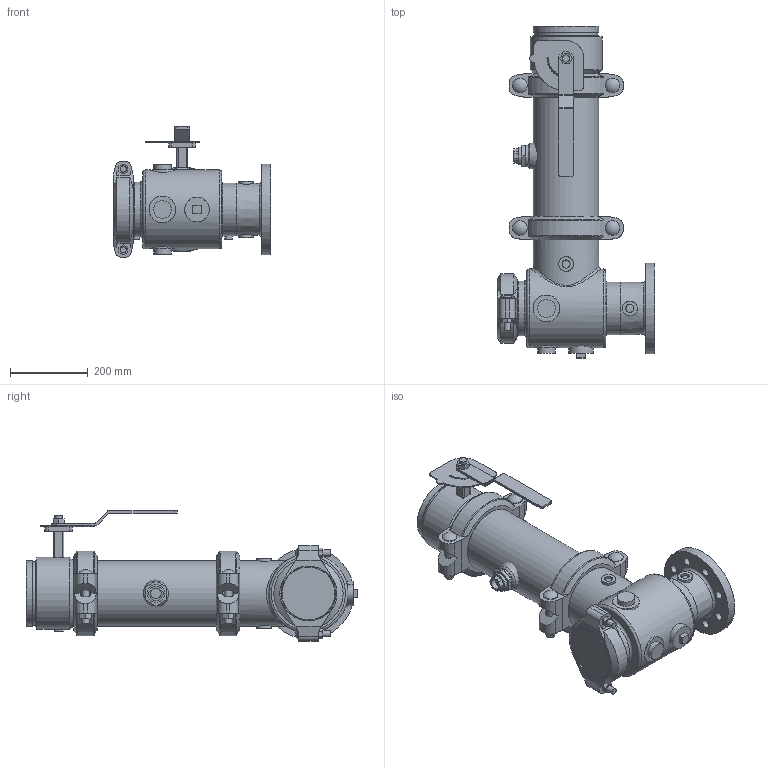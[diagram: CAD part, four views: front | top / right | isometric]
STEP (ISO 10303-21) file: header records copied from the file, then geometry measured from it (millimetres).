
FILE_DESCRIPTION(/* description */ ('VIC SVI PUMP DROP HORZ S/391 (OGSxFLG)','CAx-IF Rec.Pracs.---Representation and Presentation of Product Manufacturing Information (PMI)---4.0---2014-10-13'),/* implementation_level */ '2;1');
FILE_NAME(/* name */ 'C:\Users\kkamble\AppData\Roaming\Autodesk\ApplicationPlugins\Back Up\Victaulic_PN10_Series 391 (OGSxFLG)\Victaulic_PN10_Series 391 (OGSxFLG)_06.0x04.0 (150x100).stp',/* time_stamp */ '2020-11-26T23:44:34+05:00',/* author */ ('kkamble'),/* organization */ ('Victaulic'),/* preprocessor_version */ 'ST-DEVELOPER v17.2',/* originating_system */ 'Autodesk Inventor 2019',/* authorisation */ '');
FILE_SCHEMA (('AP242_MANAGED_MODEL_BASED_3D_ENGINEERING_MIM_LF { 1 0 10303 442 1 1 4 }'));
Length unit declared in the file: inch
Products named in the file (9): 391-06.0x04.0; 731D-06.0x04.0; 731D-06.0x04.0_1; 731D-06.0; 07-05.0; PIPE-06.0; 177N-06.0; 761-06.0; 923-04.0x0.75
Assembly tree (9 placements, depth 3):
  391-06.0x04.0
    731D-06.0x04.0
      731D-06.0x04.0_1
      731D-06.0
      07-05.0
    177N-06.0  x2
    PIPE-06.0
    761-06.0
    923-04.0x0.75
Bounding box: 406.4 x 854.46 x 335.86 mm (x, y, z)
Volume: 11247802.8 mm3; surface area: 1701329.4 mm2
Topology: 8 solids, 11 shells, 532 faces, 1378 edges, 930 vertices
Faces by surface type: plane 298, cylinder 191, cone 19, torus 17, sphere 6, bspline 1
Full cylindrical faces by diameter (mm): 4.826 x10, 8.636 x4, 15.875 x4, 19.05 x6, 20.955 x4, 21.006 x8, 22.86 x1, 25.4 x2, 26.67 x1, 37.694 x4, 38.1 x4, 45.72 x3, 45.974 x2, 55.118 x1, 55.626 x1, 63.5 x1, 101.6 x1, 104.902 x1, 112.776 x1, 121.412 x1, 134.95 x1, 136.144 x1, 137.033 x2, 141.3 x5, 146.558 x1, 154.051 x2, 155.575 x2, 163.957 x5, 168.275 x13, 185.42 x1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
Entity records: 15649 total; most frequent: CARTESIAN_POINT 3563, DIRECTION 2485, ORIENTED_EDGE 2276, EDGE_CURVE 1138, AXIS2_PLACEMENT_3D 948, VERTEX_POINT 771, LINE 589, VECTOR 589
